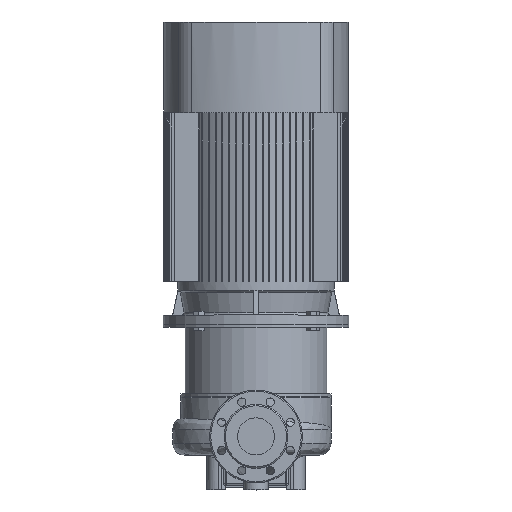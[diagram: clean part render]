
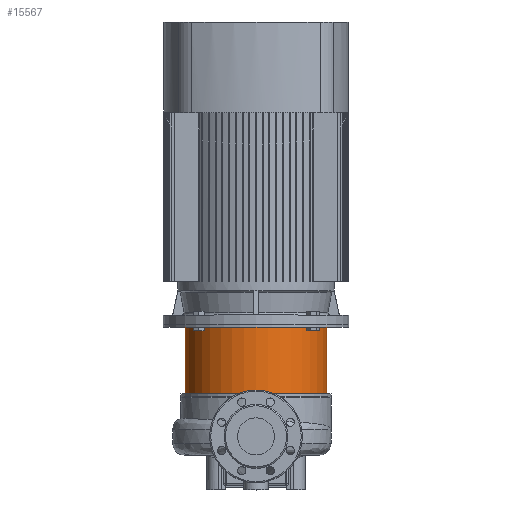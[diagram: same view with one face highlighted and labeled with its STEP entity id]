
A CAD part, top view. The second image highlights one B-rep face of the part: STEP entity #15567.
In plain terms, the highlighted cylindrical face has radius 153 mm (diameter 306 mm), a partial arc.
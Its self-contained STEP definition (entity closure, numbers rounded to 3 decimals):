
#2046 = EDGE_CURVE ( 'NONE', #7698, #10006, #29243, .T. ) ;
#2319 = CARTESIAN_POINT ( 'NONE',  ( -153., 0., 14.36 ) ) ;
#2435 = DIRECTION ( 'NONE',  ( 1., 0., 0. ) ) ;
#4227 = FACE_OUTER_BOUND ( 'NONE', #10794, .T. ) ;
#4256 = CARTESIAN_POINT ( 'NONE',  ( 153., 0., 14.36 ) ) ;
#4564 = DIRECTION ( 'NONE',  ( 0., 0., 1. ) ) ;
#4604 = LINE ( 'NONE', #2319, #12984 ) ;
#6045 = CARTESIAN_POINT ( 'NONE',  ( 153., 0., -150. ) ) ;
#6351 = DIRECTION ( 'NONE',  ( 1., 0., 0. ) ) ;
#7698 = VERTEX_POINT ( 'NONE', #12917 ) ;
#7968 = DIRECTION ( 'NONE',  ( 0., 0., 1. ) ) ;
#9094 = CARTESIAN_POINT ( 'NONE',  ( 0., 0., -6. ) ) ;
#9295 = ORIENTED_EDGE ( 'NONE', *, *, #2046, .T. ) ;
#9498 = AXIS2_PLACEMENT_3D ( 'NONE', #9094, #11060, #2435 ) ;
#10006 = VERTEX_POINT ( 'NONE', #6045 ) ;
#10794 = EDGE_LOOP ( 'NONE', ( #13551, #9295, #26208, #19771 ) ) ;
#11060 = DIRECTION ( 'NONE',  ( 0., 0., 1. ) ) ;
#11924 = CIRCLE ( 'NONE', #9498, 153. ) ;
#12520 = CARTESIAN_POINT ( 'NONE',  ( 0., 0., -150. ) ) ;
#12917 = CARTESIAN_POINT ( 'NONE',  ( -153., 0., -150. ) ) ;
#12984 = VECTOR ( 'NONE', #22750, 1000. ) ;
#13455 = DIRECTION ( 'NONE',  ( 0., 0., 1. ) ) ;
#13488 = LINE ( 'NONE', #4256, #26161 ) ;
#13551 = ORIENTED_EDGE ( 'NONE', *, *, #22033, .F. ) ;
#13880 = EDGE_CURVE ( 'NONE', #10006, #26870, #13488, .T. ) ;
#15078 = CARTESIAN_POINT ( 'NONE',  ( 153., 0., -6. ) ) ;
#15567 = ADVANCED_FACE ( 'NONE', ( #4227 ), #27092, .T. ) ;
#17825 = CARTESIAN_POINT ( 'NONE',  ( -153., 0., -6. ) ) ;
#18812 = AXIS2_PLACEMENT_3D ( 'NONE', #27230, #13455, #6351 ) ;
#19771 = ORIENTED_EDGE ( 'NONE', *, *, #19877, .F. ) ;
#19877 = EDGE_CURVE ( 'NONE', #20961, #26870, #11924, .T. ) ;
#20961 = VERTEX_POINT ( 'NONE', #17825 ) ;
#21426 = DIRECTION ( 'NONE',  ( 1., 0., 0. ) ) ;
#22033 = EDGE_CURVE ( 'NONE', #7698, #20961, #4604, .T. ) ;
#22750 = DIRECTION ( 'NONE',  ( 0., 0., 1. ) ) ;
#26161 = VECTOR ( 'NONE', #4564, 1000. ) ;
#26208 = ORIENTED_EDGE ( 'NONE', *, *, #13880, .T. ) ;
#26870 = VERTEX_POINT ( 'NONE', #15078 ) ;
#27092 = CYLINDRICAL_SURFACE ( 'NONE', #18812, 153. ) ;
#27230 = CARTESIAN_POINT ( 'NONE',  ( 0., 0., 14.36 ) ) ;
#27301 = AXIS2_PLACEMENT_3D ( 'NONE', #12520, #7968, #21426 ) ;
#29243 = CIRCLE ( 'NONE', #27301, 153. ) ;
